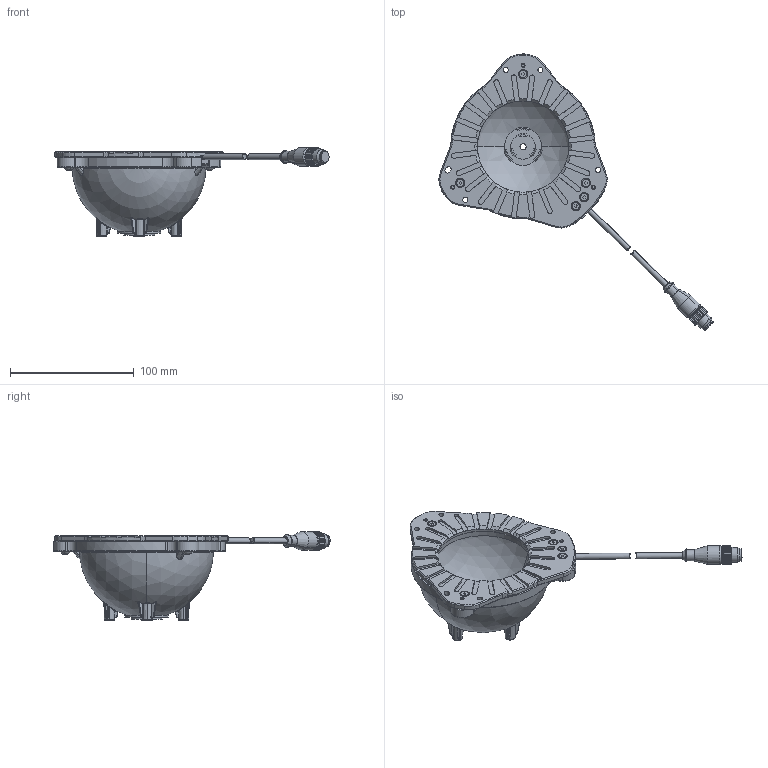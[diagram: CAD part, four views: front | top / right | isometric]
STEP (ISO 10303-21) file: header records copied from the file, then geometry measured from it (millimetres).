
FILE_DESCRIPTION (( 'STEP AP214' ), '1' );
FILE_NAME ('TPL_SDOME-II_80_B.STEP', '2015-05-29T08:29:26', ( 'SCDESIGN08' ), ( '' ), 'SwSTEP 2.0', 'SolidWorks 2014', '' );
FILE_SCHEMA (( 'AUTOMOTIVE_DESIGN' ));
Length unit declared in the file: millimetre
Products named in the file (14): TPL_SDOME-II_80_B; VIS BHC_M3x5; 000778; 011695; INSERT_M3_L4; VIS BHC_M4x12; 011629; Vis FHC_DIN7991 M3x8; EC-03-063-110; Vis FHC_DIN7991 M3x6; 005974; EC-01-007-007; Circuit 80; EC-03-063-101
Assembly tree (21 placements, depth 2):
  TPL_SDOME-II_80_B
    EC-03-063-101
    Circuit 80
    EC-01-007-007
    005974
    Vis FHC_DIN7991 M3x6  x2
    EC-03-063-110
    Vis FHC_DIN7991 M3x8  x3
    011629
    VIS BHC_M4x12  x3
    INSERT_M3_L4  x4
    011695
    000778
    VIS BHC_M3x5
Bounding box: 221.13 x 222.82 x 71.64 mm (x, y, z)
Volume: 111257.2 mm3; surface area: 113659.3 mm2
Topology: 22 solids, 22 shells, 1990 faces, 4931 edges, 3128 vertices
Faces by surface type: plane 923, cylinder 478, bspline 204, cone 201, torus 130, sphere 54
Entity records: 65270 total; most frequent: CARTESIAN_POINT 19917, ORIENTED_EDGE 9338, DIRECTION 8938, EDGE_CURVE 4669, AXIS2_PLACEMENT_3D 3210, VERTEX_POINT 2976, LINE 2518, VECTOR 2518
